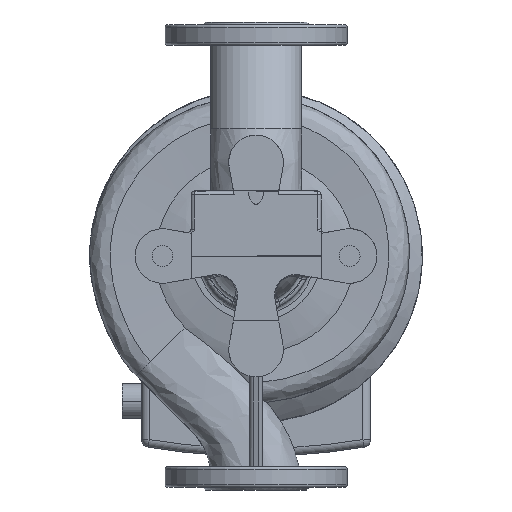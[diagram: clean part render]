
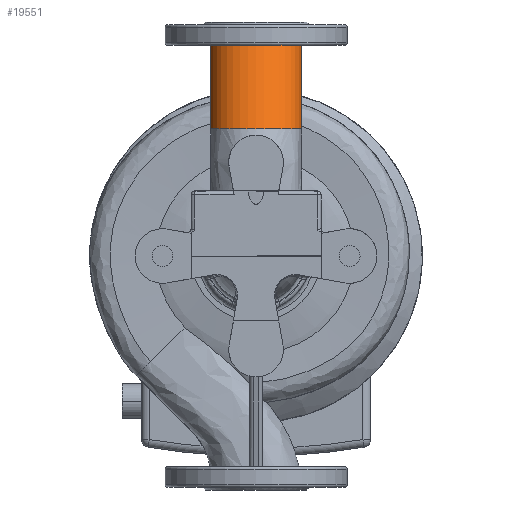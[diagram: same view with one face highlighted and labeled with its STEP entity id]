
A CAD part, front view. The second image highlights one B-rep face of the part: STEP entity #19551.
In plain terms, the highlighted free-form (B-spline) face has degree [3, 1] with [4, 2] control points.
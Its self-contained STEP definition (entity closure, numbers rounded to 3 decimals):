
#176 = CARTESIAN_POINT ( 'NONE',  ( -35., -44.909, 97.864 ) ) ;
#3228 = EDGE_CURVE ( 'NONE', #42311, #37590, #19144, .T. ) ;
#3545 = AXIS2_PLACEMENT_3D ( 'NONE', #40773, #40329, #27062 ) ;
#4810 = CARTESIAN_POINT ( 'NONE',  ( 35., 0., 162. ) ) ;
#4871 = ORIENTED_EDGE ( 'NONE', *, *, #41972, .T. ) ;
#5016 = CIRCLE ( 'NONE', #3545, 35. ) ;
#5150 =( BOUNDED_SURFACE ( )  B_SPLINE_SURFACE ( 3, 1, ( 
 ( #12577, #4810 ),
 ( #15801, #18983 ),
 ( #32697, #26287 ),
 ( #8684, #22643 ) ),
 .UNSPECIFIED., .F., .F., .T. ) 
 B_SPLINE_SURFACE_WITH_KNOTS ( ( 4, 4 ),
 ( 2, 2 ),
 ( 0.5, 1. ),
 ( 0., 1. ),
 .UNSPECIFIED. ) 
 GEOMETRIC_REPRESENTATION_ITEM ( )  RATIONAL_B_SPLINE_SURFACE ( (
 ( 1., 1.),
 ( 0.333, 0.333),
 ( 0.333, 0.333),
 ( 1., 1.) ) ) 
 REPRESENTATION_ITEM ( '' )  SURFACE ( )  );
#5154 = DIRECTION ( 'NONE',  ( 0., 0., -1. ) ) ;
#6077 = EDGE_CURVE ( 'NONE', #37590, #22931, #44084, .T. ) ;
#7171 = EDGE_LOOP ( 'NONE', ( #37727, #4871, #32908, #21762 ) ) ;
#8684 = CARTESIAN_POINT ( 'NONE',  ( -35., -44.909, 97.864 ) ) ;
#11682 = AXIS2_PLACEMENT_3D ( 'NONE', #44474, #5154, #13145 ) ;
#12577 = CARTESIAN_POINT ( 'NONE',  ( 35., -44.909, 97.864 ) ) ;
#13145 = DIRECTION ( 'NONE',  ( -1., 0., 0. ) ) ;
#13202 = CARTESIAN_POINT ( 'NONE',  ( 35., -44.909, 97.864 ) ) ;
#14488 = B_SPLINE_CURVE_WITH_KNOTS ( 'NONE', 1,
 ( #15765, #39507 ),
 .UNSPECIFIED., .F., .F.,
 ( 2, 2 ),
 ( 0., 1. ),
 .UNSPECIFIED. ) ;
#15765 = CARTESIAN_POINT ( 'NONE',  ( 35., -44.909, 97.864 ) ) ;
#15801 = CARTESIAN_POINT ( 'NONE',  ( 35., -114.909, 97.864 ) ) ;
#18983 = CARTESIAN_POINT ( 'NONE',  ( 35., -70., 162. ) ) ;
#19144 = CIRCLE ( 'NONE', #11682, 35. ) ;
#19551 = ADVANCED_FACE ( 'NONE', ( #43890 ), #5150, .F. ) ;
#19899 = CARTESIAN_POINT ( 'NONE',  ( -35., 0., 162. ) ) ;
#21762 = ORIENTED_EDGE ( 'NONE', *, *, #6077, .F. ) ;
#22539 = VERTEX_POINT ( 'NONE', #29852 ) ;
#22643 = CARTESIAN_POINT ( 'NONE',  ( -35., 0., 162. ) ) ;
#22931 = VERTEX_POINT ( 'NONE', #27889 ) ;
#23799 = CARTESIAN_POINT ( 'NONE',  ( -35., -44.909, 97.864 ) ) ;
#26287 = CARTESIAN_POINT ( 'NONE',  ( -35., -70., 162. ) ) ;
#27062 = DIRECTION ( 'NONE',  ( -1., 0., 0. ) ) ;
#27889 = CARTESIAN_POINT ( 'NONE',  ( -35., 0., 162. ) ) ;
#29852 = CARTESIAN_POINT ( 'NONE',  ( 35., 0., 162. ) ) ;
#32697 = CARTESIAN_POINT ( 'NONE',  ( -35., -114.909, 97.864 ) ) ;
#32908 = ORIENTED_EDGE ( 'NONE', *, *, #35102, .T. ) ;
#35102 = EDGE_CURVE ( 'NONE', #22539, #22931, #5016, .T. ) ;
#37590 = VERTEX_POINT ( 'NONE', #176 ) ;
#37727 = ORIENTED_EDGE ( 'NONE', *, *, #3228, .F. ) ;
#39507 = CARTESIAN_POINT ( 'NONE',  ( 35., 0., 162. ) ) ;
#40329 = DIRECTION ( 'NONE',  ( 0., 0., -1. ) ) ;
#40773 = CARTESIAN_POINT ( 'NONE',  ( 0., 0., 162. ) ) ;
#41972 = EDGE_CURVE ( 'NONE', #42311, #22539, #14488, .T. ) ;
#42311 = VERTEX_POINT ( 'NONE', #13202 ) ;
#43890 = FACE_OUTER_BOUND ( 'NONE', #7171, .T. ) ;
#44084 = B_SPLINE_CURVE_WITH_KNOTS ( 'NONE', 1,
 ( #23799, #19899 ),
 .UNSPECIFIED., .F., .F.,
 ( 2, 2 ),
 ( 0., 1. ),
 .UNSPECIFIED. ) ;
#44474 = CARTESIAN_POINT ( 'NONE',  ( 0., -44.909, 97.864 ) ) ;
